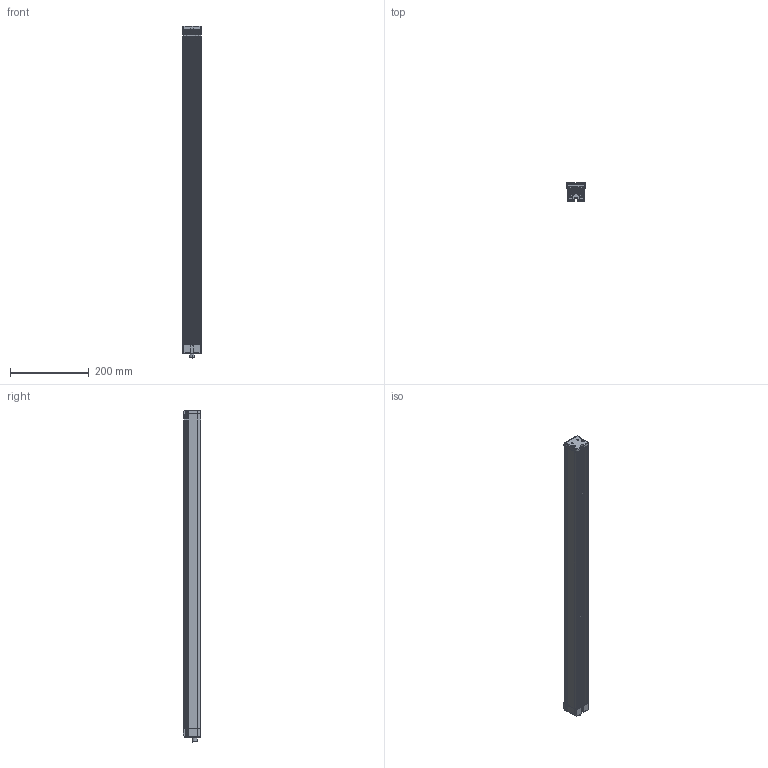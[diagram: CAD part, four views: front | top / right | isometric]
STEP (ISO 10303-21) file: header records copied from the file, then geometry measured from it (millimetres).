
FILE_DESCRIPTION (( 'STEP AP214' ), '1' );
FILE_NAME ('EBAR-C-800.STEP', '2017-11-07T12:40:40', ( '' ), ( '' ), 'SwSTEP 2.0', 'SolidWorks 2014', '' );
FILE_SCHEMA (( 'AUTOMOTIVE_DESIGN' ));
Length unit declared in the file: millimetre
Products named in the file (162): 1432350; Open CASCADE STEP translator 6.8 1.10.1; Body_1_13; A14054060_ASM; A14054517; Pin_2_7; Body_1_15; Body_1_3; R26; R16; Pin_2_4; C14; 039875_A Curve_connection_circuit; A14054005; Pin_1_8; R30; U2; Open CASCADE STEP translator 6.8 1.29.1; R22; Pin_1_5; C7; J3; A14054002; Body_1_10; R29; Open CASCADE STEP translator 6.8 1.4.1; Pin_2_8; R15; Body_1_6; C13; Open CASCADE STEP translator 6.8 1.68.1; A14054001; R4; L3; Pin_1; Pin_1_9; C11; C6; R18; J2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
Assembly tree (213 placements, depth 7):
  EBAR-C-800
    A14054001
    A14054002
    A14054005
    A14054517
    011843_ASM
      A14054006
      VE80510  x2
    A14054060_ASM
      A14054040_ASM
        1437892_EMBASE_MALE
        A14054027 after modification
      A14054516
      A14054517
      Button Cover for Curve Function
      039875_A Curve_connection_circuit
        Layer_1
        P1
          Open CASCADE STEP translator 6.8 1.2.1
            Body_1
        P2
          Open CASCADE STEP translator 6.8 1.3.1
            Body_1
        U2
          Open CASCADE STEP translator 6.8 1.4.1
            Body_1_2
            Pin_1
        C1
          Open CASCADE STEP translator 6.8 1.5.1
            Body_1_3
            Pin_1_2
            Pin_2
        C3
          Open CASCADE STEP translator 6.8 1.5.1
            Body_1_3
            Pin_1_2
            Pin_2
        C4
          Open CASCADE STEP translator 6.8 1.7.1
            Body_1_4
            Pin_1_3
            Pin_2_2
        C5
          Open CASCADE STEP translator 6.8 1.8.1
            Body_1_5
            Pin_1_4
            Pin_2_3
        C6
          Open CASCADE STEP translator 6.8 1.5.1
            Body_1_3
            Pin_1_2
            Pin_2
        L1
          Open CASCADE STEP translator 6.8 1.10.1
            Body_1_6
            Pin_1_5
            Pin_2_4
        L2
          Open CASCADE STEP translator 6.8 1.11.1
            Body_1_7
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Bounding box: 47.63 x 45 x 845.05 mm (x, y, z)
Volume: 631773.4 mm3; surface area: 582965.3 mm2
Topology: 211 solids, 215 shells, 8827 faces, 22387 edges, 13976 vertices
Faces by surface type: plane 3764, cylinder 2377, bspline 2296, cone 326, torus 64
Entity records: 276167 total; most frequent: CARTESIAN_POINT 118635, ORIENTED_EDGE 29980, DIRECTION 23289, EDGE_CURVE 14990, VERTEX_POINT 9330, AXIS2_PLACEMENT_3D 8186, VECTOR 6917, LINE 6917
